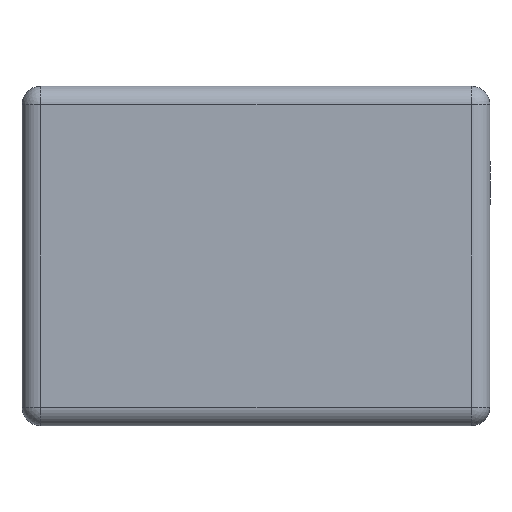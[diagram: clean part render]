
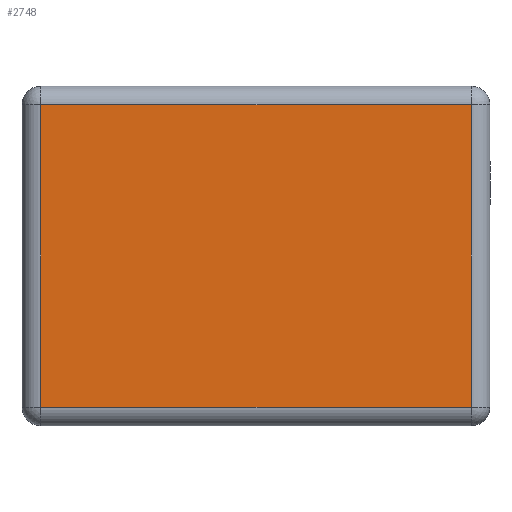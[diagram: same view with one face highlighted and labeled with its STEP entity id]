
A CAD part, front view. The second image highlights one B-rep face of the part: STEP entity #2748.
In plain terms, the highlighted planar face has unit normal (0, -1, 0).
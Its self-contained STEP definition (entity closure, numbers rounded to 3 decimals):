
#54=PLANE('',#3062);
#256=LINE('',#6042,#381);
#258=LINE('',#6050,#383);
#259=LINE('',#6057,#384);
#260=LINE('',#6062,#385);
#381=VECTOR('',#3705,10.);
#383=VECTOR('',#3713,10.);
#384=VECTOR('',#3724,10.);
#385=VECTOR('',#3733,10.);
#619=FACE_OUTER_BOUND('',#812,.T.);
#812=EDGE_LOOP('',(#2269,#2270,#2271,#2272));
#1268=VERTEX_POINT('',#6035);
#1271=VERTEX_POINT('',#6040);
#1272=VERTEX_POINT('',#6044);
#1275=VERTEX_POINT('',#6054);
#1607=EDGE_CURVE('',#1271,#1268,#256,.T.);
#1611=EDGE_CURVE('',#1268,#1272,#258,.T.);
#1615=EDGE_CURVE('',#1272,#1275,#259,.T.);
#1618=EDGE_CURVE('',#1275,#1271,#260,.T.);
#2269=ORIENTED_EDGE('',*,*,#1607,.F.);
#2270=ORIENTED_EDGE('',*,*,#1618,.F.);
#2271=ORIENTED_EDGE('',*,*,#1615,.F.);
#2272=ORIENTED_EDGE('',*,*,#1611,.F.);
#2748=ADVANCED_FACE('',(#619),#54,.T.);
#3062=AXIS2_PLACEMENT_3D('',#6074,#3753,#3754);
#3705=DIRECTION('',(-1.,0.,0.));
#3713=DIRECTION('',(0.,0.,1.));
#3724=DIRECTION('',(1.,0.,0.));
#3733=DIRECTION('',(0.,0.,-1.));
#3753=DIRECTION('center_axis',(0.,-1.,0.));
#3754=DIRECTION('ref_axis',(-1.,0.,0.));
#6035=CARTESIAN_POINT('',(-66.4,-177.8,-34.75));
#6040=CARTESIAN_POINT('',(82.5,-177.8,-34.75));
#6042=CARTESIAN_POINT('',(8.05,-177.8,-34.75));
#6044=CARTESIAN_POINT('',(-66.4,-177.8,69.75));
#6050=CARTESIAN_POINT('',(-66.4,-177.8,76.25));
#6054=CARTESIAN_POINT('',(82.5,-177.8,69.75));
#6057=CARTESIAN_POINT('',(89.,-177.8,69.75));
#6062=CARTESIAN_POINT('',(82.5,-177.8,17.5));
#6074=CARTESIAN_POINT('Origin',(89.,-177.8,76.25));
